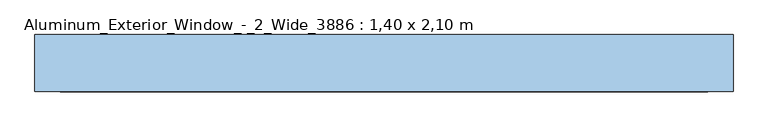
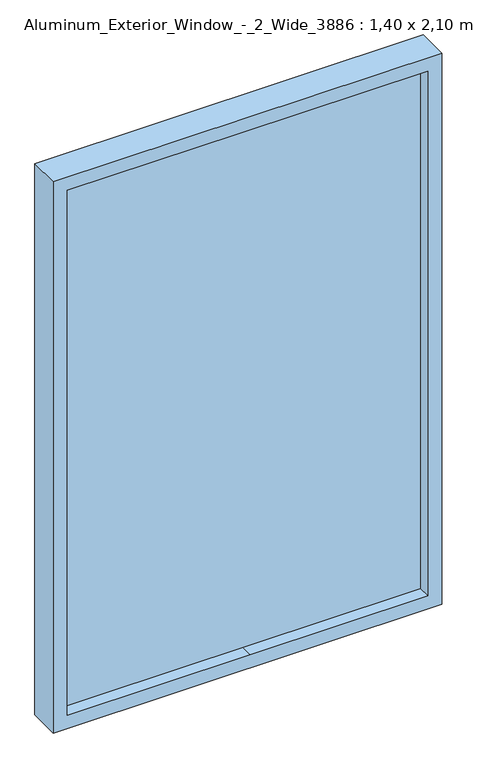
"""IFC4 building model written with IfcOpenShell, lengths in millimetres: window geometry, Aluminum_Exterior_Window_-_2_Wide_3886 : 1,40 x 2,10 m."""

from ifc_helpers import new_model, si_unit, frame, origin, place, context, project, spatial, polyline, outline, extrude, source, transform, mapped, element, save


def aluminum_exterior_window_2_wide_3886_1_40_x_2_10_m_fd60d73d(model_context):
    return source(origin(), model_context, "Body", "SweptSolid", [
        extrude(outline(polyline([(3116.0, -1371.6), (1016.0, -1371.6), (1016.0, 28.4), (3116.0, 28.4), (3116.0, -1371.6)]), holes=[polyline([(3065.2, -697.0), (3065.2, -22.4), (1066.8, -22.4), (1066.8, -663.8808837), (1066.8, -1320.8), (3065.2, -1320.8), (3065.2, -697.0)])]), frame((0.0, -38.1424754, 0.0), z_axis=(0.0, 1.0, 0.0), x_axis=(0.0, 0.0, 1.0)), (0.0, 0.0, 1.0), 114.3),
        extrude(outline(polyline([(3065.2, -697.0), (3065.2, -1320.8), (1066.8, -1320.8), (1066.8, -670.891469), (1066.8, -22.4), (3065.2, -22.4), (3065.2, -697.0)])), frame((0.0, 6.3075246, 0.0), z_axis=(0.0, 1.0, 0.0), x_axis=(0.0, 0.0, 1.0)), (0.0, 0.0, 1.0), 25.4),
    ])


if __name__ == "__main__":
    model = new_model("IFC4")
    model_context = context("Model", 3, world=origin())
    ifc_project = project(units=[si_unit("LENGTHUNIT", "METRE", prefix="MILLI")], contexts=[model_context])
    site = spatial("IfcSite", under=ifc_project)
    building = spatial("IfcBuilding", under=site)
    placement = place(None, origin())
    aluminum_exterior_window_2_wide_3886_1_40_x_2_10_m_shape = aluminum_exterior_window_2_wide_3886_1_40_x_2_10_m_fd60d73d(model_context)
    element("IfcWindow", 1, ObjectType="Aluminum_Exterior_Window_-_2_Wide_3886 : 1,40 x 2,10 m", at=placement, inside=building, context=model_context, shape_type="MappedRepresentation", body=[
        mapped(aluminum_exterior_window_2_wide_3886_1_40_x_2_10_m_shape, transform((0.0, 0.0, 0.0), x_axis=(1.0, 0.0, 0.0), y_axis=(0.0, 1.0, 0.0), z_axis=(0.0, 0.0, 1.0))),
    ])
    save(model, "model.ifc")
